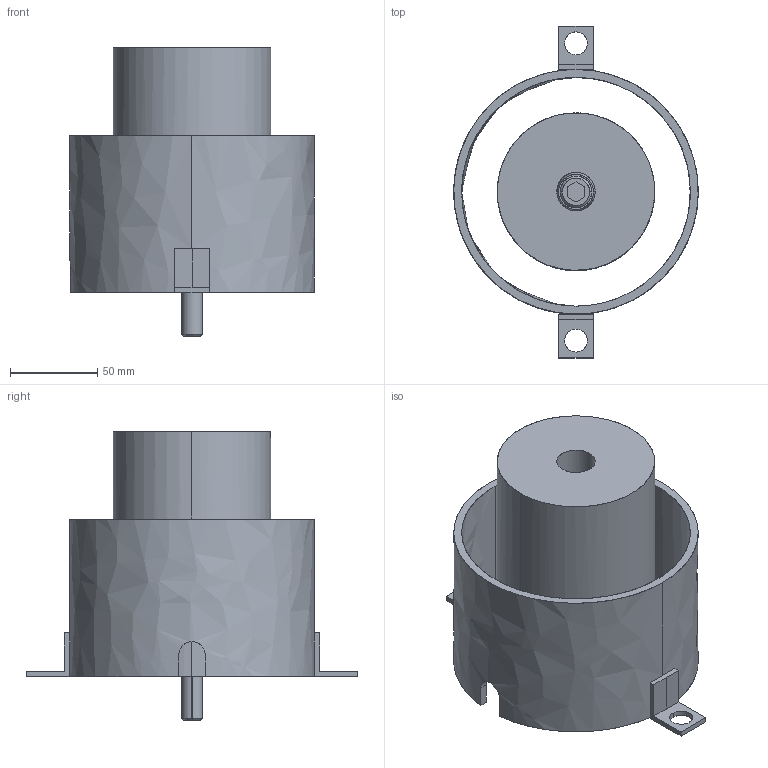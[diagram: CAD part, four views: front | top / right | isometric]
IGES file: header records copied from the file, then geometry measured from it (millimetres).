
Global section: file name: E:\UnigraphicsGraphicData\MISUMI_PRESS-PARTS\IGES\3d_phub90-140-90-r_07087_r00.igs; native system: NX V5.0; preprocessor: UGS NX IGES V5.0; author: MISUMI; date: 20110105.162254; units: millimetre
Bounding box: 139.8 x 189.8 x 165 mm (x, y, z)
Surface area: 152734.9 mm2 (no closed solid volume)
Topology: 0 solids, 0 shells, 69 faces, 502 edges, 502 vertices
Faces by surface type: bspline 69
